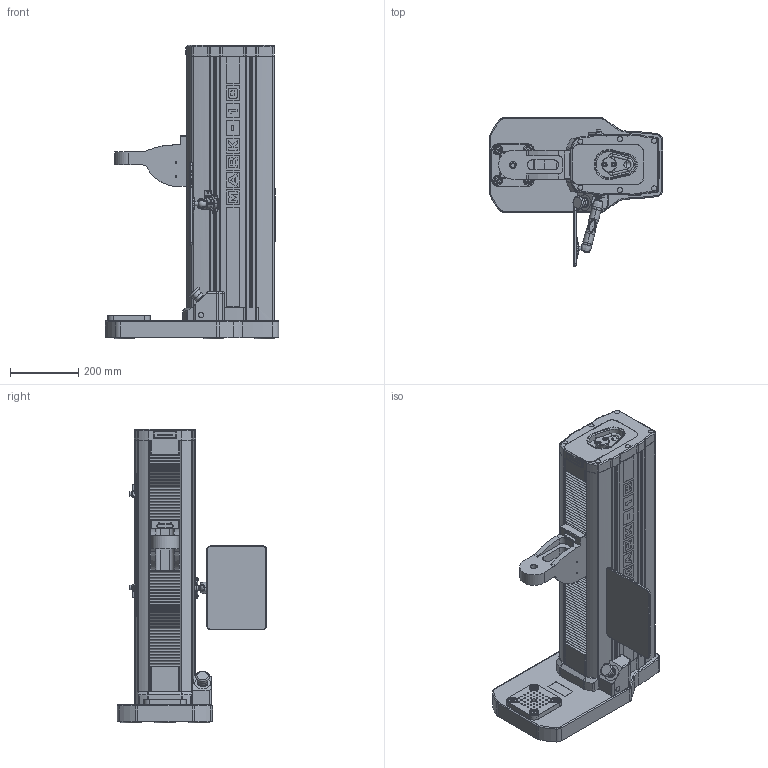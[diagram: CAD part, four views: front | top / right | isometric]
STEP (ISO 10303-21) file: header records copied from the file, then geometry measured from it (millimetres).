
FILE_DESCRIPTION(/* description */ (''),/* implementation_level */ '2;1');
FILE_NAME(/* name */ 'F:\CAD files\Itr\3D MARKETING MODELS\MOTORIZED TEST STANDS\FXXX5X\F1505S-IMT\F1505S_IMT.stp',/* time_stamp */ '2021-02-05T15:19:33-05:00',/* author */ ('dsollitt'),/* organization */ (''),/* preprocessor_version */ 'ST-DEVELOPER v18.1',/* originating_system */ 'AutoCAD Mechanical',/* authorisation */ '');
FILE_SCHEMA (('AUTOMOTIVE_DESIGN { 1 0 10303 214 3 1 1 }'));
Products named in the file (1): Product
Bounding box: 508 x 437.5 x 861.97 mm (x, y, z)
Volume: 41557715.8 mm3; surface area: 1843474.6 mm2
Topology: 5 solids, 12 shells, 8706 faces, 25934 edges, 17991 vertices
Faces by surface type: plane 7006, cylinder 1065, cone 226, bspline 203, torus 143, sphere 63
Full cylindrical faces by diameter (mm): 0.4 x1, 0.6 x1, 1.015 x2, 1.55 x4, 1.797 x2, 2 x2, 2.13 x1, 2.845 x8, 3.048 x8, 3.328 x1, 3.505 x2, 3.556 x1, 4.7 x24, 4.826 x48, 5.41 x8, 5.563 x2, 6 x2, 6.35 x39, 6.731 x4, 7.938 x4, 9.169 x2, 9.525 x6, 9.8 x1, 11.43 x1, 11.906 x2, 12.1 x1, 12.7 x3, 12.8 x2, 12.954 x4, 13.462 x2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
Entity records: 314623 total; most frequent: CARTESIAN_POINT 77596, ORIENTED_EDGE 51800, DIRECTION 45334, EDGE_CURVE 25900, LINE 21992, VECTOR 21992, VERTEX_POINT 17991, AXIS2_PLACEMENT_3D 11671
